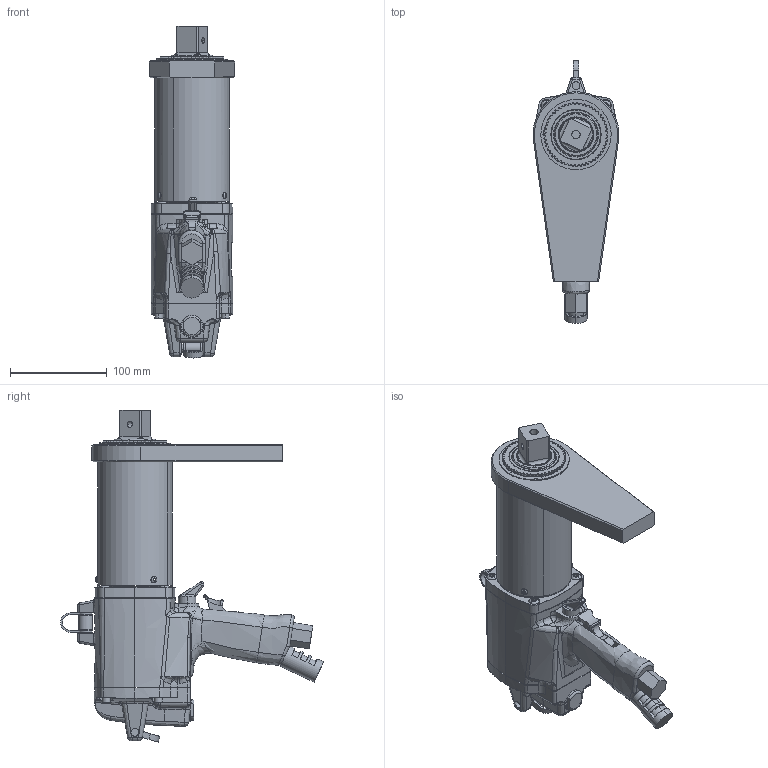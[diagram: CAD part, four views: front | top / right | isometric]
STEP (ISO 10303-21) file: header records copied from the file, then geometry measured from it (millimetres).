
FILE_DESCRIPTION (( 'STEP AP214' ), '1' );
FILE_NAME ('AAP1B772950A.STEP', '2014-12-06T00:15:40', ( 'AIMCO' ), ( '' ), 'SwSTEP 2.0', 'SolidWorks 2014', '' );
FILE_SCHEMA (( 'AUTOMOTIVE_DESIGN' ));
Length unit declared in the file: inch
Products named in the file (1): AAP1B772950A
Bounding box: 88.86 x 272.07 x 343.55 mm (x, y, z)
Surface area: 183174.3 mm2 (no closed solid volume)
Topology: 0 solids, 29 shells, 896 faces, 3694 edges, 2781 vertices
Faces by surface type: bspline 296, cylinder 279, plane 220, cone 76, torus 25
Entity records: 126005 total; most frequent: CARTESIAN_POINT 88471, ORIENTED_EDGE 5688, DIRECTION 3995, EDGE_CURVE 3668, VERTEX_POINT 2781, B_SPLINE_CURVE_WITH_KNOTS 1651, AXIS2_PLACEMENT_3D 1450, LINE 1095
